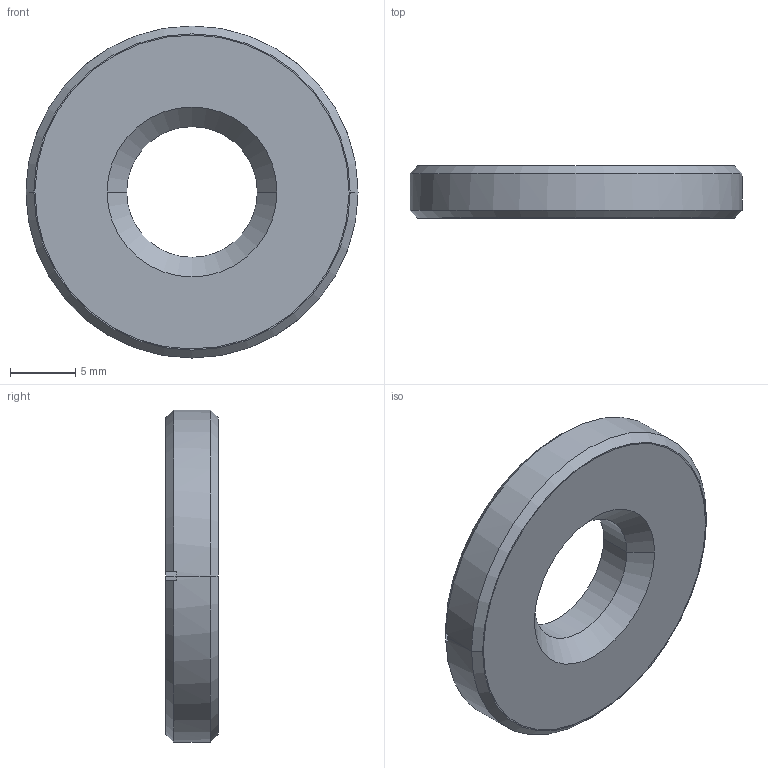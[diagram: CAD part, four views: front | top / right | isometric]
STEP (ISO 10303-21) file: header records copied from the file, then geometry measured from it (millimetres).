
FILE_DESCRIPTION(/* description */ ('VariCAD 2017-2.10 AP-214'),/* implementation_level */ '2;1');
FILE_NAME(/* name */ '04_pmt_stopper.stp',/* time_stamp */ '2023-12-21T11:01:55+02:00',/* author */ (''),/* organization */ (''),/* preprocessor_version */ 'VariCAD 2017-2.10',/* originating_system */ 'VariCAD 2017-2.10; kernel version (20130303)',/* authorisation */ '');
FILE_SCHEMA(('AUTOMOTIVE_DESIGN'));
Length unit declared in the file: millimetre
Products named in the file (2): 04_pmt_stopper
Assembly tree (1 placements, depth 2):
  04_pmt_stopper
    (unnamed)
Bounding box: 25.4 x 4 x 25.4 mm (x, y, z)
Volume: 1474.6 mm3; surface area: 1404.7 mm2
Topology: 1 solids, 1 shells, 34 faces, 84 edges, 54 vertices
Faces by surface type: plane 20, cylinder 8, cone 6
Entity records: 1211 total; most frequent: DIRECTION 196, CARTESIAN_POINT 196, ORIENTED_EDGE 168, EDGE_CURVE 84, AXIS2_PLACEMENT_3D 78, VERTEX_POINT 54, LINE 40, VECTOR 40
